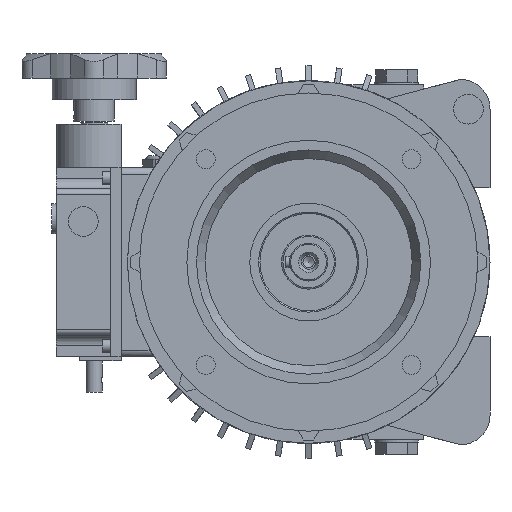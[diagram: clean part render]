
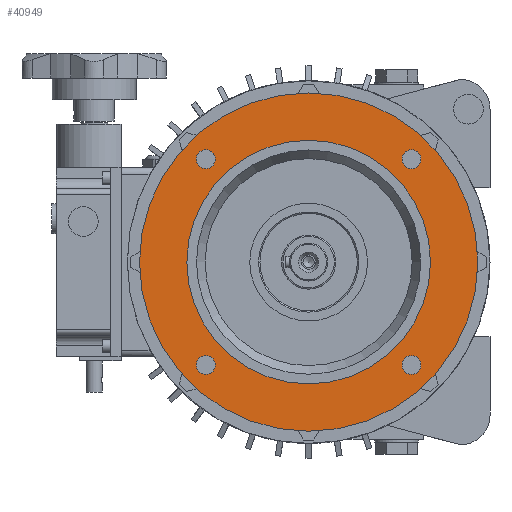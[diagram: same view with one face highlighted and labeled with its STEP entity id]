
A CAD part, left-side view. The second image highlights one B-rep face of the part: STEP entity #40949.
In plain terms, the highlighted planar face has unit normal (-1, 0, 0).
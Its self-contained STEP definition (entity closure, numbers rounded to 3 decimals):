
#490=PLANE('',#43649);
#10978=ORIENTED_EDGE('',*,*,#22700,.F.);
#10979=ORIENTED_EDGE('',*,*,#22701,.F.);
#10980=ORIENTED_EDGE('',*,*,#22702,.F.);
#10981=ORIENTED_EDGE('',*,*,#22703,.F.);
#10982=ORIENTED_EDGE('',*,*,#22704,.F.);
#10983=ORIENTED_EDGE('',*,*,#22699,.T.);
#22699=EDGE_CURVE('',#28698,#28698,#32514,.T.);
#22700=EDGE_CURVE('',#28699,#28699,#32515,.F.);
#22701=EDGE_CURVE('',#28700,#28700,#32516,.F.);
#22702=EDGE_CURVE('',#28701,#28701,#32517,.F.);
#22703=EDGE_CURVE('',#28702,#28702,#32518,.F.);
#22704=EDGE_CURVE('',#28703,#28703,#32519,.T.);
#28698=VERTEX_POINT('',#62871);
#28699=VERTEX_POINT('',#62874);
#28700=VERTEX_POINT('',#62876);
#28701=VERTEX_POINT('',#62878);
#28702=VERTEX_POINT('',#62880);
#28703=VERTEX_POINT('',#62882);
#32514=CIRCLE('',#43648,90.);
#32515=CIRCLE('',#43650,7.);
#32516=CIRCLE('',#43651,7.);
#32517=CIRCLE('',#43652,7.);
#32518=CIRCLE('',#43653,7.);
#32519=CIRCLE('',#43654,125.);
#34795=EDGE_LOOP('',(#10978));
#34796=EDGE_LOOP('',(#10979));
#34797=EDGE_LOOP('',(#10980));
#34798=EDGE_LOOP('',(#10981));
#34799=EDGE_LOOP('',(#10982));
#34800=EDGE_LOOP('',(#10983));
#37456=FACE_BOUND('',#34795,.T.);
#37457=FACE_BOUND('',#34796,.T.);
#37458=FACE_BOUND('',#34797,.T.);
#37459=FACE_BOUND('',#34798,.T.);
#37460=FACE_BOUND('',#34799,.T.);
#37461=FACE_BOUND('',#34800,.T.);
#40949=ADVANCED_FACE('',(#37456,#37457,#37458,#37459,#37460,#37461),#490,
 .F.);
#43648=AXIS2_PLACEMENT_3D('',#62870,#49279,#49280);
#43649=AXIS2_PLACEMENT_3D('',#62872,#49281,#49282);
#43650=AXIS2_PLACEMENT_3D('',#62873,#49283,#49284);
#43651=AXIS2_PLACEMENT_3D('',#62875,#49285,#49286);
#43652=AXIS2_PLACEMENT_3D('',#62877,#49287,#49288);
#43653=AXIS2_PLACEMENT_3D('',#62879,#49289,#49290);
#43654=AXIS2_PLACEMENT_3D('',#62881,#49291,#49292);
#49279=DIRECTION('',(1.,0.,0.));
#49280=DIRECTION('',(0.,0.,-1.));
#49281=DIRECTION('',(1.,0.,0.));
#49282=DIRECTION('',(0.,0.,-1.));
#49283=DIRECTION('',(1.,0.,0.));
#49284=DIRECTION('',(0.,0.,-1.));
#49285=DIRECTION('',(1.,0.,0.));
#49286=DIRECTION('',(0.,0.,-1.));
#49287=DIRECTION('',(1.,0.,0.));
#49288=DIRECTION('',(0.,0.,-1.));
#49289=DIRECTION('',(1.,0.,0.));
#49290=DIRECTION('',(0.,0.,-1.));
#49291=DIRECTION('',(1.,0.,0.));
#49292=DIRECTION('',(0.,0.,-1.));
#62870=CARTESIAN_POINT('',(0.,0.,0.));
#62871=CARTESIAN_POINT('',(0.,0.,-90.));
#62872=CARTESIAN_POINT('',(0.,90.,0.));
#62873=CARTESIAN_POINT('',(0.,-76.014,76.014));
#62874=CARTESIAN_POINT('',(0.,-76.014,69.014));
#62875=CARTESIAN_POINT('',(0.,-76.014,-76.014));
#62876=CARTESIAN_POINT('',(0.,-76.014,-83.014));
#62877=CARTESIAN_POINT('',(0.,76.014,-76.014));
#62878=CARTESIAN_POINT('',(0.,76.014,-83.014));
#62879=CARTESIAN_POINT('',(0.,76.014,76.014));
#62880=CARTESIAN_POINT('',(0.,76.014,69.014));
#62881=CARTESIAN_POINT('',(0.,0.,0.));
#62882=CARTESIAN_POINT('',(0.,0.,-125.));
